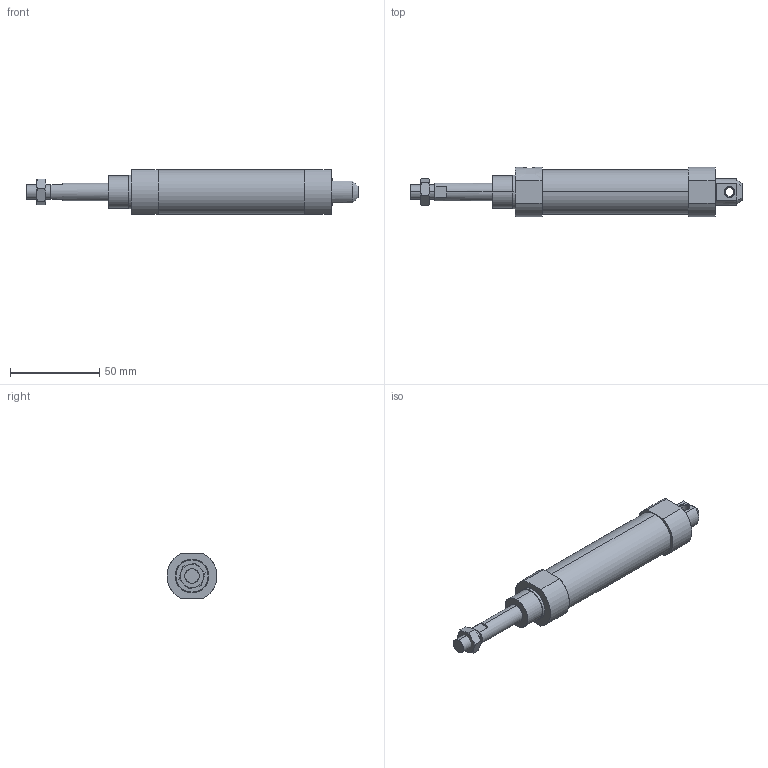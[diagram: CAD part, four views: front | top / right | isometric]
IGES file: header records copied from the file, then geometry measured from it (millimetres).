
Start section: SolidWorks IGES file using analytic representation for surfaces
Global section: file name: C:\Users\Toshiba\Desktop\J#0-20-25-C.IGS; native system: SolidWorks 2014; preprocessor: SolidWorks 2014; author: Toshiba; date: 160308.141647; units: millimetre
Bounding box: 186 x 28 x 25 mm (x, y, z)
Surface area: 14157.6 mm2 (no closed solid volume)
Topology: 0 solids, 0 shells, 75 faces, 1178 edges, 1178 vertices
Faces by surface type: bspline 47, revolution 28
